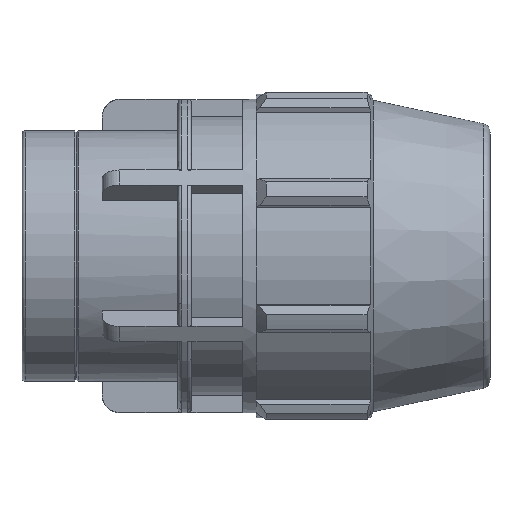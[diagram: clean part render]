
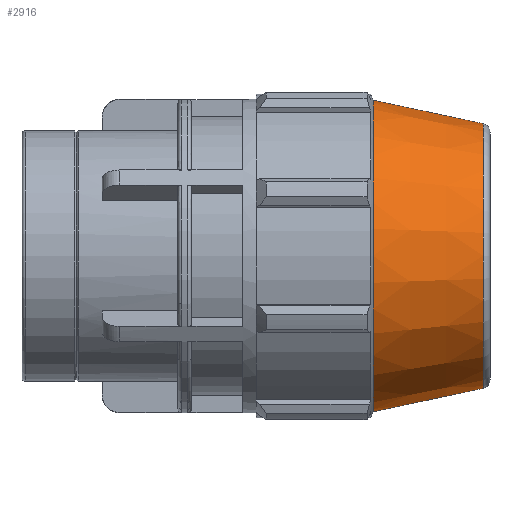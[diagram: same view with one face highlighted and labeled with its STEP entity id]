
A CAD part, top view. The second image highlights one B-rep face of the part: STEP entity #2916.
In plain terms, the highlighted conical face has half-angle 12 degrees and reference radius 39.503 mm.
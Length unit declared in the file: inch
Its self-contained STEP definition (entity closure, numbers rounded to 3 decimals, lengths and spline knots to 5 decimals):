
#56=CONICAL_SURFACE('',#3220,1.55525,0.209);
#294=LINE('',#5334,#498);
#498=VECTOR('',#3967,1.55525);
#711=FACE_OUTER_BOUND('',#868,.T.);
#868=EDGE_LOOP('',(#2488,#2489,#2490,#2491,#2492,#2493,#2494));
#1013=CIRCLE('',#3179,1.69022);
#1014=CIRCLE('',#3180,1.69022);
#1034=CIRCLE('',#3216,1.43622);
#1035=CIRCLE('',#3217,1.43622);
#1036=CIRCLE('',#3218,1.43622);
#1329=VERTEX_POINT('',#5213);
#1330=VERTEX_POINT('',#5214);
#1355=VERTEX_POINT('',#5325);
#1356=VERTEX_POINT('',#5327);
#1357=VERTEX_POINT('',#5329);
#1707=EDGE_CURVE('',#1329,#1330,#1013,.T.);
#1708=EDGE_CURVE('',#1330,#1329,#1014,.T.);
#1764=EDGE_CURVE('',#1355,#1356,#1034,.T.);
#1765=EDGE_CURVE('',#1356,#1357,#1035,.T.);
#1766=EDGE_CURVE('',#1357,#1355,#1036,.T.);
#1768=EDGE_CURVE('',#1356,#1330,#294,.T.);
#2488=ORIENTED_EDGE('',*,*,#1766,.F.);
#2489=ORIENTED_EDGE('',*,*,#1765,.F.);
#2490=ORIENTED_EDGE('',*,*,#1768,.T.);
#2491=ORIENTED_EDGE('',*,*,#1708,.T.);
#2492=ORIENTED_EDGE('',*,*,#1707,.T.);
#2493=ORIENTED_EDGE('',*,*,#1768,.F.);
#2494=ORIENTED_EDGE('',*,*,#1764,.F.);
#2916=ADVANCED_FACE('',(#711),#56,.T.);
#3179=AXIS2_PLACEMENT_3D('',#5215,#3854,#3855);
#3180=AXIS2_PLACEMENT_3D('',#5216,#3856,#3857);
#3216=AXIS2_PLACEMENT_3D('',#5328,#3957,#3958);
#3217=AXIS2_PLACEMENT_3D('',#5330,#3959,#3960);
#3218=AXIS2_PLACEMENT_3D('',#5331,#3961,#3962);
#3220=AXIS2_PLACEMENT_3D('',#5333,#3965,#3966);
#3854=DIRECTION('center_axis',(1.,0.,0.));
#3855=DIRECTION('ref_axis',(0.,0.,-1.));
#3856=DIRECTION('center_axis',(1.,0.,0.));
#3857=DIRECTION('ref_axis',(0.,0.,-1.));
#3957=DIRECTION('center_axis',(1.,0.,0.));
#3958=DIRECTION('ref_axis',(0.,-1.,0.));
#3959=DIRECTION('center_axis',(1.,0.,0.));
#3960=DIRECTION('ref_axis',(0.,-1.,0.));
#3961=DIRECTION('center_axis',(1.,0.,0.));
#3962=DIRECTION('ref_axis',(0.,-1.,0.));
#3965=DIRECTION('center_axis',(-1.,0.,0.));
#3966=DIRECTION('ref_axis',(0.,1.,0.));
#3967=DIRECTION('',(-0.978,-0.208,0.));
#5213=CARTESIAN_POINT('',(3.81,1.69022,0.));
#5214=CARTESIAN_POINT('',(3.81,-1.69022,0.));
#5215=CARTESIAN_POINT('Origin',(3.81,0.,0.));
#5216=CARTESIAN_POINT('Origin',(3.81,0.,0.));
#5325=CARTESIAN_POINT('',(5.005,0.,1.43622));
#5327=CARTESIAN_POINT('',(5.005,-1.43622,0.));
#5328=CARTESIAN_POINT('Origin',(5.005,0.,0.));
#5329=CARTESIAN_POINT('',(5.005,1.43622,0.));
#5330=CARTESIAN_POINT('Origin',(5.005,0.,0.));
#5331=CARTESIAN_POINT('Origin',(5.005,0.,0.));
#5333=CARTESIAN_POINT('Origin',(4.445,0.,0.));
#5334=CARTESIAN_POINT('',(4.445,-1.55525,0.));
